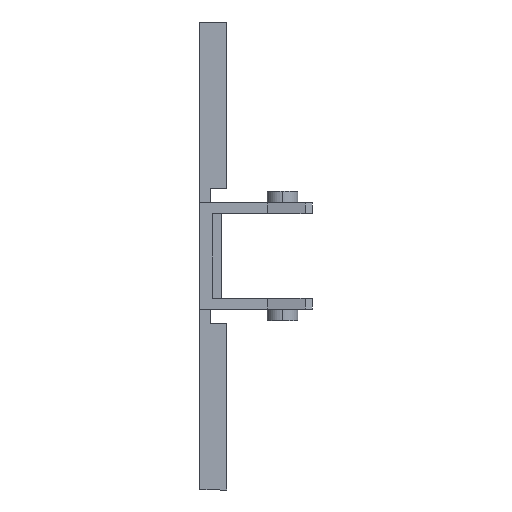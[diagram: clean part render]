
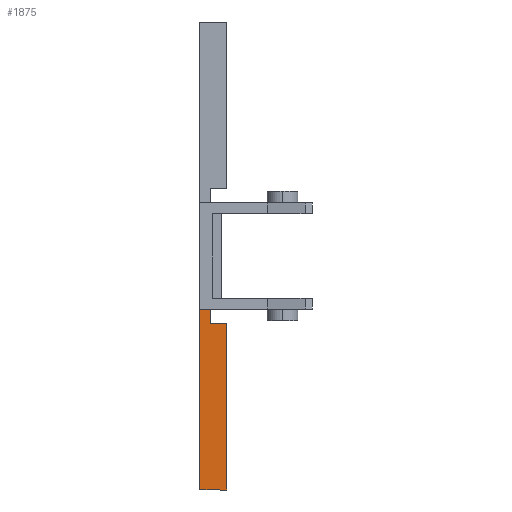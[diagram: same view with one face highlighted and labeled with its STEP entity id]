
A CAD part, front view. The second image highlights one B-rep face of the part: STEP entity #1875.
In plain terms, the highlighted planar face has unit normal (0, -1, 0).
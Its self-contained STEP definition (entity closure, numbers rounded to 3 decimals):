
#41 = CARTESIAN_POINT ( 'NONE',  ( 1.2, -9., -5. ) ) ;
#44 = DIRECTION ( 'NONE',  ( 0., 0., 1. ) ) ;
#235 = EDGE_LOOP ( 'NONE', ( #337, #342, #343, #344, #345, #346 ) ) ;
#337 = ORIENTED_EDGE ( 'NONE', *, *, #1254, .F. ) ;
#342 = ORIENTED_EDGE ( 'NONE', *, *, #1100, .T. ) ;
#343 = ORIENTED_EDGE ( 'NONE', *, *, #1286, .T. ) ;
#344 = ORIENTED_EDGE ( 'NONE', *, *, #1117, .T. ) ;
#345 = ORIENTED_EDGE ( 'NONE', *, *, #1174, .T. ) ;
#346 = ORIENTED_EDGE ( 'NONE', *, *, #1094, .T. ) ;
#712 = DIRECTION ( 'NONE',  ( 0., 0., 1. ) ) ;
#713 = DIRECTION ( 'NONE',  ( 0., 1., 0. ) ) ;
#720 = CARTESIAN_POINT ( 'NONE',  ( 1.2, -9., -5. ) ) ;
#725 = PLANE ( 'NONE',  #1182 ) ;
#876 = CARTESIAN_POINT ( 'NONE',  ( 3., -9., -7.5 ) ) ;
#933 = CARTESIAN_POINT ( 'NONE',  ( 0., -9., -5.9 ) ) ;
#934 = CARTESIAN_POINT ( 'NONE',  ( 1.2, -9., -5.9 ) ) ;
#961 = CARTESIAN_POINT ( 'NONE',  ( 3., -9., -26. ) ) ;
#962 = CARTESIAN_POINT ( 'NONE',  ( 0., -9., -26. ) ) ;
#968 = CARTESIAN_POINT ( 'NONE',  ( 1.2, -9., -7.5 ) ) ;
#1094 = EDGE_CURVE ( 'NONE', #2140, #1991, #1347, .T. ) ;
#1100 = EDGE_CURVE ( 'NONE', #1992, #2134, #1798, .T. ) ;
#1117 = EDGE_CURVE ( 'NONE', #2133, #1977, #1811, .T. ) ;
#1174 = EDGE_CURVE ( 'NONE', #1977, #2140, #1691, .T. ) ;
#1182 = AXIS2_PLACEMENT_3D ( 'NONE', #720, #713, #712 ) ;
#1254 = EDGE_CURVE ( 'NONE', #1992, #1991, #1594, .T. ) ;
#1286 = EDGE_CURVE ( 'NONE', #2134, #2133, #1547, .T. ) ;
#1347 = LINE ( 'NONE', #41, #1350 ) ;
#1350 = VECTOR ( 'NONE', #44, 1000. ) ;
#1387 = FACE_OUTER_BOUND ( 'NONE', #235, .T. ) ;
#1546 = VECTOR ( 'NONE', #2540, 1000. ) ;
#1547 = LINE ( 'NONE', #2542, #1546 ) ;
#1593 = VECTOR ( 'NONE', #2198, 1000. ) ;
#1594 = LINE ( 'NONE', #2197, #1593 ) ;
#1690 = VECTOR ( 'NONE', #2353, 1000. ) ;
#1691 = LINE ( 'NONE', #2352, #1690 ) ;
#1798 = LINE ( 'NONE', #2678, #1800 ) ;
#1800 = VECTOR ( 'NONE', #2144, 1000. ) ;
#1811 = LINE ( 'NONE', #2166, #1813 ) ;
#1813 = VECTOR ( 'NONE', #2167, 1000. ) ;
#1875 = ADVANCED_FACE ( 'NONE', ( #1387 ), #725, .F. ) ;
#1977 = VERTEX_POINT ( 'NONE', #876 ) ;
#1991 = VERTEX_POINT ( 'NONE', #934 ) ;
#1992 = VERTEX_POINT ( 'NONE', #933 ) ;
#2133 = VERTEX_POINT ( 'NONE', #961 ) ;
#2134 = VERTEX_POINT ( 'NONE', #962 ) ;
#2140 = VERTEX_POINT ( 'NONE', #968 ) ;
#2144 = DIRECTION ( 'NONE',  ( 0., 0., -1. ) ) ;
#2166 = CARTESIAN_POINT ( 'NONE',  ( 3., -9., -7.5 ) ) ;
#2167 = DIRECTION ( 'NONE',  ( 0., 0., 1. ) ) ;
#2197 = CARTESIAN_POINT ( 'NONE',  ( 1.2, -9., -5.9 ) ) ;
#2198 = DIRECTION ( 'NONE',  ( 1., 0., 0. ) ) ;
#2352 = CARTESIAN_POINT ( 'NONE',  ( 1.2, -9., -7.5 ) ) ;
#2353 = DIRECTION ( 'NONE',  ( -1., 0., 0. ) ) ;
#2540 = DIRECTION ( 'NONE',  ( 1., 0., 0. ) ) ;
#2542 = CARTESIAN_POINT ( 'NONE',  ( 3., -9., -26. ) ) ;
#2678 = CARTESIAN_POINT ( 'NONE',  ( 0., -9., -26. ) ) ;
